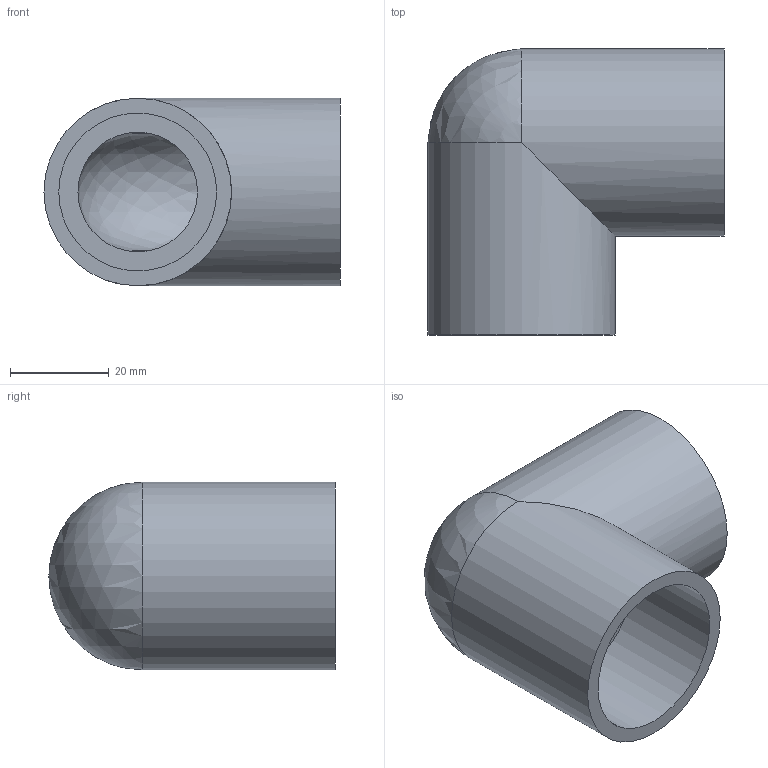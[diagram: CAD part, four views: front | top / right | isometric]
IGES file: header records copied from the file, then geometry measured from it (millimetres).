
Global section: file name: 050502032010.ipt; native system: Autodesk Inventor 2015; preprocessor: unknown; author: KIM; date: 20171207.164709; units: millimetre
Bounding box: 60 x 58 x 38 mm (x, y, z)
Volume: 42132.6 mm3; surface area: 17099.3 mm2
Topology: 1 solids, 1 shells, 12 faces, 26 edges, 16 vertices
Faces by surface type: revolution 5, plane 4, cylinder 2, sphere 1
Full cylindrical faces by diameter (mm): 38 x2
